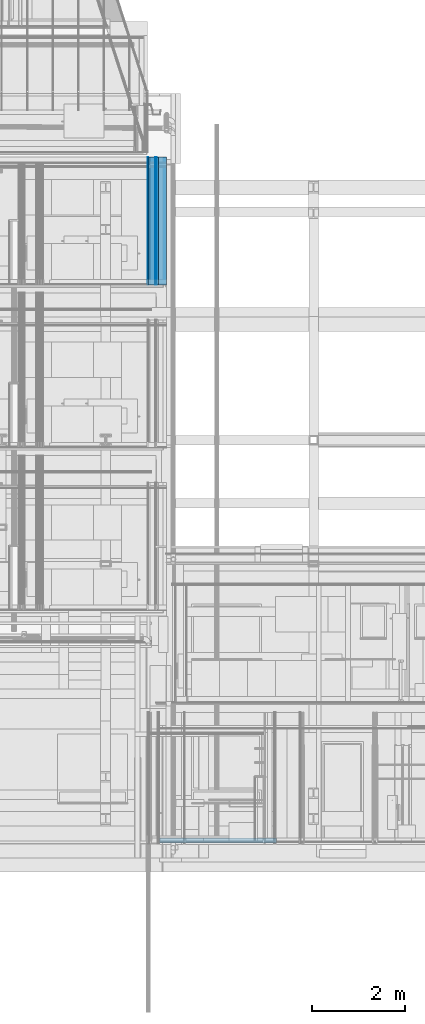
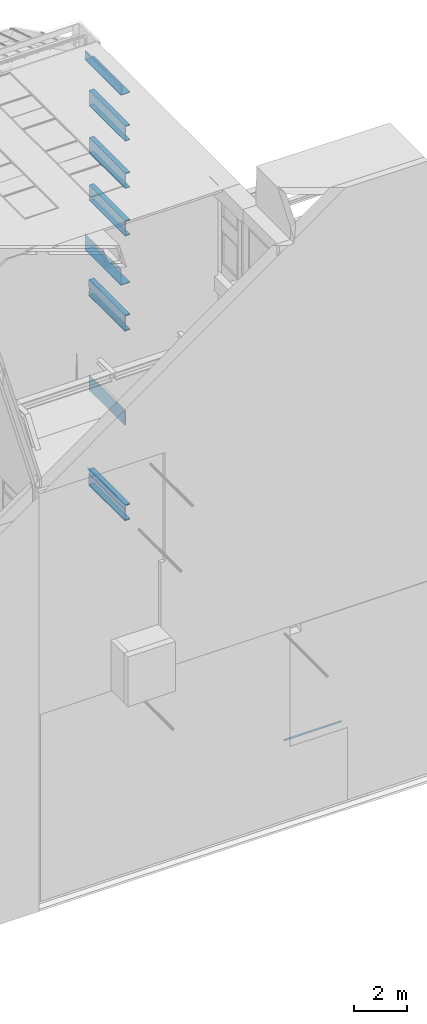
# One storey, part 127 of 583: 50 building element parts, 21 elements without a shape of their own.
"""IFC2X3 building model written with IfcOpenShell, lengths in metres."""

from ifc_helpers import new_model, entity, si_unit, converted_unit, derived_unit, money_unit, direction, frame, frame_2d, origin_with_axes, place, context, subcontext, project, spatial, polyline, rectangle, outline, extrude, material, type_object, element, aggregate, save


model = new_model("IFC2X3")

# Units and contexts
model_context = context("Model", 3, precision=1e-05, world=origin_with_axes(), true_north=direction((0.0, 1.0)))
body_context = subcontext(model_context, "Body", "Model", "MODEL_VIEW", scale=1.0)
ifc_project = project(units=[si_unit("LENGTHUNIT", "METRE"), si_unit("AREAUNIT", "SQUARE_METRE"), si_unit("VOLUMEUNIT", "CUBIC_METRE"), si_unit("ABSORBEDDOSEUNIT", "GRAY"), si_unit("AMOUNTOFSUBSTANCEUNIT", "MOLE"), si_unit("DOSEEQUIVALENTUNIT", "SIEVERT"), si_unit("ELECTRICCAPACITANCEUNIT", "FARAD"), si_unit("ELECTRICCHARGEUNIT", "COULOMB"), si_unit("ELECTRICCONDUCTANCEUNIT", "SIEMENS"), si_unit("ELECTRICCURRENTUNIT", "AMPERE"), si_unit("ELECTRICRESISTANCEUNIT", "OHM"), si_unit("ELECTRICVOLTAGEUNIT", "VOLT"), si_unit("ENERGYUNIT", "JOULE"), si_unit("FORCEUNIT", "NEWTON"), si_unit("FREQUENCYUNIT", "HERTZ"), si_unit("ILLUMINANCEUNIT", "LUX"), si_unit("INDUCTANCEUNIT", "HENRY"), si_unit("LUMINOUSFLUXUNIT", "LUMEN"), si_unit("LUMINOUSINTENSITYUNIT", "CANDELA"), si_unit("MAGNETICFLUXDENSITYUNIT", "TESLA"), si_unit("MAGNETICFLUXUNIT", "WEBER"), si_unit("MASSUNIT", "GRAM"), converted_unit("PLANEANGLEUNIT", "degree", entity("IfcReal", 0.0174532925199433), si_unit("PLANEANGLEUNIT", "RADIAN"), dimensions=[0, 0, 0, 0, 0, 0, 0]), si_unit("POWERUNIT", "WATT"), si_unit("PRESSUREUNIT", "PASCAL"), si_unit("RADIOACTIVITYUNIT", "BECQUEREL"), si_unit("SOLIDANGLEUNIT", "STERADIAN"), si_unit("THERMODYNAMICTEMPERATUREUNIT", "KELVIN"), si_unit("TIMEUNIT", "SECOND"), derived_unit("ACCELERATIONUNIT", [(si_unit("LENGTHUNIT", "METRE"), 1), (si_unit("TIMEUNIT", "SECOND"), -2)]), derived_unit("ANGULARVELOCITYUNIT", [(converted_unit("PLANEANGLEUNIT", "degree", entity("IfcReal", 0.0174532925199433), si_unit("PLANEANGLEUNIT", "RADIAN"), dimensions=[0, 0, 0, 0, 0, 0, 0]), 1), (si_unit("TIMEUNIT", "SECOND"), -1)]), derived_unit("CURVATUREUNIT", [(converted_unit("PLANEANGLEUNIT", "degree", entity("IfcReal", 0.0174532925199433), si_unit("PLANEANGLEUNIT", "RADIAN"), dimensions=[0, 0, 0, 0, 0, 0, 0]), 1), (si_unit("LENGTHUNIT", "METRE"), -1)]), derived_unit("DYNAMICVISCOSITYUNIT", [(si_unit("PRESSUREUNIT", "PASCAL"), 1), (si_unit("TIMEUNIT", "SECOND"), 1)]), derived_unit("HEATFLUXDENSITYUNIT", [(si_unit("POWERUNIT", "WATT"), 1), (si_unit("LENGTHUNIT", "METRE"), -2)]), derived_unit("HEATINGVALUEUNIT", [(si_unit("ENERGYUNIT", "JOULE"), 1), (si_unit("MASSUNIT", "GRAM"), -1)]), derived_unit("INTEGERCOUNTRATEUNIT", [(si_unit("TIMEUNIT", "SECOND"), -1)]), derived_unit("IONCONCENTRATIONUNIT", [(si_unit("MASSUNIT", "GRAM"), 1), (si_unit("VOLUMEUNIT", "CUBIC_METRE"), -1)]), derived_unit("ISOTHERMALMOISTURECAPACITYUNIT", [(si_unit("VOLUMEUNIT", "CUBIC_METRE"), 1), (si_unit("MASSUNIT", "GRAM"), -1)]), derived_unit("KINEMATICVISCOSITYUNIT", [(si_unit("AREAUNIT", "SQUARE_METRE"), 1), (si_unit("TIMEUNIT", "SECOND"), -1)]), derived_unit("LINEARFORCEUNIT", [(si_unit("FORCEUNIT", "NEWTON"), 1), (si_unit("LENGTHUNIT", "METRE"), -1)]), derived_unit("LINEARMOMENTUNIT", [(si_unit("FORCEUNIT", "NEWTON"), 1), (si_unit("LENGTHUNIT", "METRE"), -1)]), derived_unit("LINEARSTIFFNESSUNIT", [(si_unit("FORCEUNIT", "NEWTON"), 1), (si_unit("LENGTHUNIT", "METRE"), -1)]), derived_unit("LINEARVELOCITYUNIT", [(si_unit("LENGTHUNIT", "METRE"), 1), (si_unit("TIMEUNIT", "SECOND"), -1)]), derived_unit("LUMINOUSINTENSITYDISTRIBUTIONUNIT", [(si_unit("LUMINOUSINTENSITYUNIT", "CANDELA"), 1), (si_unit("LUMINOUSFLUXUNIT", "LUMEN"), -1)]), derived_unit("MASSDENSITYUNIT", [(si_unit("MASSUNIT", "GRAM"), 1), (si_unit("VOLUMEUNIT", "CUBIC_METRE"), -1)]), derived_unit("MASSFLOWRATEUNIT", [(si_unit("MASSUNIT", "GRAM"), 1), (si_unit("TIMEUNIT", "SECOND"), -1)]), derived_unit("MASSPERLENGTHUNIT", [(si_unit("MASSUNIT", "GRAM"), 1), (si_unit("LENGTHUNIT", "METRE"), -1)]), derived_unit("MODULUSOFELASTICITYUNIT", [(si_unit("FORCEUNIT", "NEWTON"), 1), (si_unit("AREAUNIT", "SQUARE_METRE"), -1)]), derived_unit("MODULUSOFLINEARSUBGRADEREACTIONUNIT", [(si_unit("FORCEUNIT", "NEWTON"), 1), (si_unit("LENGTHUNIT", "METRE"), -2)]), derived_unit("MODULUSOFROTATIONALSUBGRADEREACTIONUNIT", [(si_unit("FORCEUNIT", "NEWTON"), 1), (si_unit("LENGTHUNIT", "METRE"), 1)]), derived_unit("MODULUSOFSUBGRADEREACTIONUNIT", [(si_unit("FORCEUNIT", "NEWTON"), 1), (si_unit("VOLUMEUNIT", "CUBIC_METRE"), -1)]), derived_unit("MOISTUREDIFFUSIVITYUNIT", [(si_unit("VOLUMEUNIT", "CUBIC_METRE"), 1), (si_unit("TIMEUNIT", "SECOND"), -1)]), derived_unit("MOLECULARWEIGHTUNIT", [(si_unit("MASSUNIT", "GRAM"), 1), (si_unit("AMOUNTOFSUBSTANCEUNIT", "MOLE"), -1)]), derived_unit("PLANARFORCEUNIT", [(si_unit("FORCEUNIT", "NEWTON"), 1), (si_unit("LENGTHUNIT", "METRE"), -2)]), derived_unit("ROTATIONALFREQUENCYUNIT", [(si_unit("TIMEUNIT", "SECOND"), -1)]), derived_unit("ROTATIONALMASSUNIT", [(si_unit("MASSUNIT", "GRAM"), 1), (si_unit("LENGTHUNIT", "METRE"), 2)]), derived_unit("ROTATIONALSTIFFNESSUNIT", [(si_unit("FORCEUNIT", "NEWTON"), 1), (si_unit("LENGTHUNIT", "METRE"), 1), (converted_unit("PLANEANGLEUNIT", "degree", entity("IfcReal", 0.0174532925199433), si_unit("PLANEANGLEUNIT", "RADIAN"), dimensions=[0, 0, 0, 0, 0, 0, 0]), -1)]), derived_unit("SECTIONAREAINTEGRALUNIT", [(si_unit("LENGTHUNIT", "METRE"), 5)]), derived_unit("SECTIONMODULUSUNIT", [(si_unit("LENGTHUNIT", "METRE"), 3)]), derived_unit("SHEARMODULUSUNIT", [(si_unit("FORCEUNIT", "NEWTON"), 1), (si_unit("AREAUNIT", "SQUARE_METRE"), -1)]), derived_unit("SOUNDPOWERUNIT", [(si_unit("ENERGYUNIT", "JOULE"), 1), (si_unit("TIMEUNIT", "SECOND"), -1)]), derived_unit("SPECIFICHEATCAPACITYUNIT", [(si_unit("FORCEUNIT", "NEWTON"), 1), (si_unit("MASSUNIT", "GRAM"), -1), (si_unit("THERMODYNAMICTEMPERATUREUNIT", "KELVIN"), -1)]), derived_unit("TEMPERATUREGRADIENTUNIT", [(si_unit("THERMODYNAMICTEMPERATUREUNIT", "KELVIN"), 1), (si_unit("LENGTHUNIT", "METRE"), -1)]), derived_unit("THERMALADMITTANCEUNIT", [(si_unit("POWERUNIT", "WATT"), 1), (si_unit("AREAUNIT", "SQUARE_METRE"), -1), (si_unit("THERMODYNAMICTEMPERATUREUNIT", "KELVIN"), -1)]), derived_unit("THERMALCONDUCTANCEUNIT", [(si_unit("POWERUNIT", "WATT"), 1), (si_unit("LENGTHUNIT", "METRE"), -1), (si_unit("THERMODYNAMICTEMPERATUREUNIT", "KELVIN"), -1)]), derived_unit("THERMALEXPANSIONCOEFFICIENTUNIT", [(si_unit("THERMODYNAMICTEMPERATUREUNIT", "KELVIN"), -1)]), derived_unit("THERMALRESISTANCEUNIT", [(si_unit("AREAUNIT", "SQUARE_METRE"), 1), (si_unit("POWERUNIT", "WATT"), -1)]), derived_unit("THERMALTRANSMITTANCEUNIT", [(si_unit("POWERUNIT", "WATT"), 1), (si_unit("AREAUNIT", "SQUARE_METRE"), -1), (si_unit("THERMODYNAMICTEMPERATUREUNIT", "KELVIN"), -1)]), derived_unit("TORQUEUNIT", [(si_unit("FORCEUNIT", "NEWTON"), 1), (si_unit("LENGTHUNIT", "METRE"), 1)]), derived_unit("VAPORPERMEABILITYUNIT", [(si_unit("MASSUNIT", "GRAM"), 1), (si_unit("TIMEUNIT", "SECOND"), -1)]), derived_unit("VOLUMETRICFLOWRATEUNIT", [(si_unit("VOLUMEUNIT", "CUBIC_METRE"), 1), (si_unit("TIMEUNIT", "SECOND"), -1)]), derived_unit("WARPINGCONSTANTUNIT", [(si_unit("LENGTHUNIT", "METRE"), 6)]), derived_unit("WARPINGMOMENTUNIT", [(si_unit("FORCEUNIT", "NEWTON"), 1), (si_unit("LENGTHUNIT", "METRE"), 2)]), money_unit("GBP")], contexts=[model_context])

# Site, building, storey
site_placement = place(None, origin_with_axes())
site = spatial("IfcSite", under=ifc_project, at=site_placement, Name="Site", CompositionType="ELEMENT")
building_placement = place(site_placement, origin_with_axes())
building = spatial("IfcBuilding", under=site, at=building_placement, Name="Building01", CompositionType="ELEMENT")
storey_placement = place(building_placement, frame((0.0, 0.0, 20.78), z_axis=(0.0, 0.0, 1.0), x_axis=(1.0, 0.0, 0.0)))
storey = spatial("IfcBuildingStorey", under=building, at=storey_placement, Name="RL", CompositionType="ELEMENT", Elevation=20.78)

# Wall, building element part
wall_type_1 = type_object("IfcWallType", Name="SHE_A-Walls_Type01a_Partywall_250mm_twin", PredefinedType="NOTDEFINED")
wall_1_placement = place(storey_placement, frame((16.968647, 0.148, -17.324475), z_axis=(0.0, 1.0, 0.0), x_axis=(-1.0, 0.0, 0.0)))
wall_1 = element("IfcWall", 1, at=wall_1_placement, inside=storey, type_object=wall_type_1, Name="1A", ObjectType="SHE_A-Walls_Type01a_Partywall_250mm_twin")
ifc_material_1 = material(Name="A_BSUK_Walls_Timber")
building_element_part_1_placement = place(wall_1_placement, origin_with_axes())
building_element_part_1 = element("IfcBuildingElementPart", 2, at=building_element_part_1_placement, material=ifc_material_1, Name="2", context=body_context, shape_type="SweptSolid", body=[
    extrude(outline(polyline([(2.318647, 0.19), (-0.19, 0.19), (-0.175, 0.175), (2.318647, 0.175), (2.318647, 0.19)])), frame((0.0, 0.0, 0.015), z_axis=(0.0, 0.0, 1.0), x_axis=(1.0, 0.0, 0.0)), (0.0, 0.0, 1.0), 0.1),
])
aggregate(wall_1, [building_element_part_1])

wall_type_2 = type_object("IfcWallType", Name="SHE_A-Walls_Type06d_ExternalWallInsulation_48mm", PredefinedType="NOTDEFINED")
wall_2_placement = place(storey_placement, frame((14.45, 12.13, -2.56), z_axis=(0.0, 1.0, 0.0), x_axis=(0.0, 0.0, -1.0)))
wall_2 = element("IfcWall", 3, at=wall_2_placement, inside=storey, type_object=wall_type_2, Name="6D", ObjectType="SHE_A-Walls_Type06d_ExternalWallInsulation_48mm")
ifc_material_2 = material(Name="A_BSUK_WallInternal_Finishes_Plasterboard")
building_element_part_2_placement = place(wall_2_placement, origin_with_axes())
building_element_part_2 = element("IfcBuildingElementPart", 4, at=building_element_part_2_placement, material=ifc_material_2, Name="3", context=body_context, shape_type="SweptSolid", body=[
    extrude(outline(polyline([(0.718, 0.048), (-0.048, 0.048), (-0.035, 0.035), (0.705, 0.035), (0.718, 0.048)])), origin_with_axes(), (0.0, 0.0, 1.0), 2.74),
])
aggregate(wall_2, [building_element_part_2])

# Wall, building element parts
wall_3_placement = place(storey_placement, frame((14.45, 12.13, -3.23), z_axis=(0.0, 1.0, 0.0), x_axis=(1.0, 0.0, 0.0)))
wall_3 = element("IfcWall", 5, at=wall_3_placement, inside=storey, type_object=wall_type_2, Name="6D", ObjectType="SHE_A-Walls_Type06d_ExternalWallInsulation_48mm")
ifc_material_3 = material(Name="A_BSUK_Insulation")
placement_1 = place(wall_3_placement, origin_with_axes())
building_element_part_3 = element("IfcBuildingElementPart", 6, at=placement_1, material=ifc_material_3, Name="1", context=body_context, shape_type="SweptSolid", body=[
    extrude(outline(polyline([(-0.036, 0.036), (0.0, 0.0), (0.35, 0.0), (0.35, 0.036), (-0.036, 0.036)])), origin_with_axes(), (0.0, 0.0, 1.0), 2.74),
])
building_element_part_4 = element("IfcBuildingElementPart", 7, at=placement_1, material=ifc_material_2, Name="3", context=body_context, shape_type="SweptSolid", body=[
    extrude(outline(polyline([(-0.048, 0.048), (-0.035, 0.035), (0.35, 0.035), (0.35, 0.048), (-0.048, 0.048)])), origin_with_axes(), (0.0, 0.0, 1.0), 2.74),
])
aggregate(wall_3, [building_element_part_3, building_element_part_4])

wall_4_placement = place(storey_placement, frame((14.8, 12.13, -0.393), z_axis=(0.0, 1.0, 0.0), x_axis=(-1.0, 0.0, 0.0)))
wall_4 = element("IfcWall", 8, at=wall_4_placement, inside=storey, type_object=wall_type_2, Name="6D", ObjectType="SHE_A-Walls_Type06d_ExternalWallInsulation_48mm")
placement_2 = place(wall_4_placement, origin_with_axes())
building_element_part_5 = element("IfcBuildingElementPart", 9, at=placement_2, material=ifc_material_3, Name="1", context=body_context, shape_type="SweptSolid", body=[
    extrude(outline(polyline([(0.206, 0.036), (0.0, 0.036), (0.0, 0.0), (0.17, 0.0), (0.206, 0.036)])), origin_with_axes(), (0.0, 0.0, 1.0), 2.74),
])
building_element_part_6 = element("IfcBuildingElementPart", 10, at=placement_2, material=ifc_material_2, Name="3", context=body_context, shape_type="SweptSolid", body=[
    extrude(outline(polyline([(0.218, 0.048), (0.0, 0.048), (0.0, 0.035), (0.205, 0.035), (0.218, 0.048)])), origin_with_axes(), (0.0, 0.0, 1.0), 2.74),
])
aggregate(wall_4, [building_element_part_5, building_element_part_6])

wall_5_placement = place(storey_placement, frame((14.63, 12.13, -0.393), z_axis=(0.0, 1.0, 0.0), x_axis=(0.0, 0.0, -1.0)))
wall_5 = element("IfcWall", 11, at=wall_5_placement, inside=storey, type_object=wall_type_2, Name="6D", ObjectType="SHE_A-Walls_Type06d_ExternalWallInsulation_48mm")
placement_3 = place(wall_5_placement, origin_with_axes())
building_element_part_7 = element("IfcBuildingElementPart", 12, at=placement_3, material=ifc_material_3, Name="1", context=body_context, shape_type="SweptSolid", body=[
    extrude(outline(polyline([(0.66, 0.036), (-0.036, 0.036), (0.0, 0.0), (0.624, 0.0), (0.66, 0.036)])), origin_with_axes(), (0.0, 0.0, 1.0), 2.74),
])
building_element_part_8 = element("IfcBuildingElementPart", 13, at=placement_3, material=ifc_material_2, Name="3", context=body_context, shape_type="SweptSolid", body=[
    extrude(outline(polyline([(0.672, 0.048), (-0.048, 0.048), (-0.035, 0.035), (0.659, 0.035), (0.672, 0.048)])), origin_with_axes(), (0.0, 0.0, 1.0), 2.74),
])
aggregate(wall_5, [building_element_part_7, building_element_part_8])

wall_6_placement = place(storey_placement, frame((14.63, 12.13, -1.017), z_axis=(0.0, 1.0, 0.0), x_axis=(1.0, 0.0, 0.0)))
wall_6 = element("IfcWall", 14, at=wall_6_placement, inside=storey, type_object=wall_type_2, Name="6D", ObjectType="SHE_A-Walls_Type06d_ExternalWallInsulation_48mm")
placement_4 = place(wall_6_placement, origin_with_axes())
building_element_part_9 = element("IfcBuildingElementPart", 15, at=placement_4, material=ifc_material_3, Name="1", context=body_context, shape_type="SweptSolid", body=[
    extrude(outline(polyline([(-0.036, 0.036), (0.0, 0.0), (0.17, 0.0), (0.17, 0.036), (-0.036, 0.036)])), origin_with_axes(), (0.0, 0.0, 1.0), 2.74),
])
building_element_part_10 = element("IfcBuildingElementPart", 16, at=placement_4, material=ifc_material_2, Name="3", context=body_context, shape_type="SweptSolid", body=[
    extrude(outline(polyline([(-0.048, 0.048), (-0.035, 0.035), (0.17, 0.035), (0.17, 0.048), (-0.048, 0.048)])), origin_with_axes(), (0.0, 0.0, 1.0), 2.74),
])
aggregate(wall_6, [building_element_part_9, building_element_part_10])

wall_7_placement = place(storey_placement, frame((14.8, 12.13, 1.797), z_axis=(0.0, 1.0, 0.0), x_axis=(-1.0, 0.0, 0.0)))
wall_7 = element("IfcWall", 17, at=wall_7_placement, inside=storey, type_object=wall_type_2, Name="6D", ObjectType="SHE_A-Walls_Type06d_ExternalWallInsulation_48mm")
placement_5 = place(wall_7_placement, origin_with_axes())
building_element_part_11 = element("IfcBuildingElementPart", 18, at=placement_5, material=ifc_material_3, Name="1", context=body_context, shape_type="SweptSolid", body=[
    extrude(outline(polyline([(0.206, 0.036), (0.0, 0.036), (0.0, 0.0), (0.17, 0.0), (0.206, 0.036)])), origin_with_axes(), (0.0, 0.0, 1.0), 2.74),
])
building_element_part_12 = element("IfcBuildingElementPart", 19, at=placement_5, material=ifc_material_2, Name="3", context=body_context, shape_type="SweptSolid", body=[
    extrude(outline(polyline([(0.218, 0.048), (0.0, 0.048), (0.0, 0.035), (0.205, 0.035), (0.218, 0.048)])), origin_with_axes(), (0.0, 0.0, 1.0), 2.74),
])
aggregate(wall_7, [building_element_part_11, building_element_part_12])

wall_8_placement = place(storey_placement, frame((14.63, 12.13, 1.797), z_axis=(0.0, 1.0, 0.0), x_axis=(0.0, 0.0, -1.0)))
wall_8 = element("IfcWall", 20, at=wall_8_placement, inside=storey, type_object=wall_type_2, Name="6D", ObjectType="SHE_A-Walls_Type06d_ExternalWallInsulation_48mm")
placement_6 = place(wall_8_placement, origin_with_axes())
building_element_part_13 = element("IfcBuildingElementPart", 21, at=placement_6, material=ifc_material_3, Name="1", context=body_context, shape_type="SweptSolid", body=[
    extrude(outline(polyline([(0.66, 0.036), (-0.036, 0.036), (0.0, 0.0), (0.624, 0.0), (0.66, 0.036)])), origin_with_axes(), (0.0, 0.0, 1.0), 2.74),
])
building_element_part_14 = element("IfcBuildingElementPart", 22, at=placement_6, material=ifc_material_2, Name="3", context=body_context, shape_type="SweptSolid", body=[
    extrude(outline(polyline([(0.672, 0.048), (-0.048, 0.048), (-0.035, 0.035), (0.659, 0.035), (0.672, 0.048)])), origin_with_axes(), (0.0, 0.0, 1.0), 2.74),
])
aggregate(wall_8, [building_element_part_13, building_element_part_14])

wall_9_placement = place(storey_placement, frame((14.63, 12.13, 1.173), z_axis=(0.0, 1.0, 0.0), x_axis=(1.0, 0.0, 0.0)))
wall_9 = element("IfcWall", 23, at=wall_9_placement, inside=storey, type_object=wall_type_2, Name="6D", ObjectType="SHE_A-Walls_Type06d_ExternalWallInsulation_48mm")
placement_7 = place(wall_9_placement, origin_with_axes())
building_element_part_15 = element("IfcBuildingElementPart", 24, at=placement_7, material=ifc_material_3, Name="1", context=body_context, shape_type="SweptSolid", body=[
    extrude(outline(polyline([(-0.036, 0.036), (0.0, 0.0), (0.17, 0.0), (0.17, 0.036), (-0.036, 0.036)])), origin_with_axes(), (0.0, 0.0, 1.0), 2.74),
])
building_element_part_16 = element("IfcBuildingElementPart", 25, at=placement_7, material=ifc_material_2, Name="3", context=body_context, shape_type="SweptSolid", body=[
    extrude(outline(polyline([(-0.048, 0.048), (-0.035, 0.035), (0.17, 0.035), (0.17, 0.048), (-0.048, 0.048)])), origin_with_axes(), (0.0, 0.0, 1.0), 2.74),
])
aggregate(wall_9, [building_element_part_15, building_element_part_16])

wall_10_placement = place(storey_placement, frame((14.8, 12.13, 3.987), z_axis=(0.0, 1.0, 0.0), x_axis=(-1.0, 0.0, 0.0)))
wall_10 = element("IfcWall", 26, at=wall_10_placement, inside=storey, type_object=wall_type_2, Name="6D", ObjectType="SHE_A-Walls_Type06d_ExternalWallInsulation_48mm")
placement_8 = place(wall_10_placement, origin_with_axes())
building_element_part_17 = element("IfcBuildingElementPart", 27, at=placement_8, material=ifc_material_3, Name="1", context=body_context, shape_type="SweptSolid", body=[
    extrude(outline(polyline([(0.206, 0.036), (0.0, 0.036), (0.0, 0.0), (0.17, 0.0), (0.206, 0.036)])), origin_with_axes(), (0.0, 0.0, 1.0), 2.74),
])
building_element_part_18 = element("IfcBuildingElementPart", 28, at=placement_8, material=ifc_material_2, Name="3", context=body_context, shape_type="SweptSolid", body=[
    extrude(outline(polyline([(0.218, 0.048), (0.0, 0.048), (0.0, 0.035), (0.205, 0.035), (0.218, 0.048)])), origin_with_axes(), (0.0, 0.0, 1.0), 2.74),
])
aggregate(wall_10, [building_element_part_17, building_element_part_18])

wall_11_placement = place(storey_placement, frame((14.63, 12.13, 3.987), z_axis=(0.0, 1.0, 0.0), x_axis=(0.0, 0.0, -1.0)))
wall_11 = element("IfcWall", 29, at=wall_11_placement, inside=storey, type_object=wall_type_2, Name="6D", ObjectType="SHE_A-Walls_Type06d_ExternalWallInsulation_48mm")
placement_9 = place(wall_11_placement, origin_with_axes())
building_element_part_19 = element("IfcBuildingElementPart", 30, at=placement_9, material=ifc_material_3, Name="1", context=body_context, shape_type="SweptSolid", body=[
    extrude(outline(polyline([(0.66, 0.036), (-0.036, 0.036), (0.0, 0.0), (0.624, 0.0), (0.66, 0.036)])), origin_with_axes(), (0.0, 0.0, 1.0), 2.74),
])
building_element_part_20 = element("IfcBuildingElementPart", 31, at=placement_9, material=ifc_material_2, Name="3", context=body_context, shape_type="SweptSolid", body=[
    extrude(outline(polyline([(0.672, 0.048), (-0.048, 0.048), (-0.035, 0.035), (0.659, 0.035), (0.672, 0.048)])), origin_with_axes(), (0.0, 0.0, 1.0), 2.74),
])
aggregate(wall_11, [building_element_part_19, building_element_part_20])

wall_12_placement = place(storey_placement, frame((14.63, 12.13, 3.363), z_axis=(0.0, 1.0, 0.0), x_axis=(1.0, 0.0, 0.0)))
wall_12 = element("IfcWall", 32, at=wall_12_placement, inside=storey, type_object=wall_type_2, Name="6D", ObjectType="SHE_A-Walls_Type06d_ExternalWallInsulation_48mm")
placement_10 = place(wall_12_placement, origin_with_axes())
building_element_part_21 = element("IfcBuildingElementPart", 33, at=placement_10, material=ifc_material_3, Name="1", context=body_context, shape_type="SweptSolid", body=[
    extrude(outline(polyline([(-0.036, 0.036), (0.0, 0.0), (0.17, 0.0), (0.17, 0.036), (-0.036, 0.036)])), origin_with_axes(), (0.0, 0.0, 1.0), 2.74),
])
building_element_part_22 = element("IfcBuildingElementPart", 34, at=placement_10, material=ifc_material_2, Name="3", context=body_context, shape_type="SweptSolid", body=[
    extrude(outline(polyline([(-0.048, 0.048), (-0.035, 0.035), (0.17, 0.035), (0.17, 0.048), (-0.048, 0.048)])), origin_with_axes(), (0.0, 0.0, 1.0), 2.74),
])
aggregate(wall_12, [building_element_part_21, building_element_part_22])

wall_13_placement = place(storey_placement, frame((14.45, 12.13, 5.93), z_axis=(0.0, 1.0, 0.0), x_axis=(0.0, 0.0, -1.0)))
wall_13 = element("IfcWall", 35, at=wall_13_placement, inside=storey, type_object=wall_type_2, Name="6D", ObjectType="SHE_A-Walls_Type06d_ExternalWallInsulation_48mm")
placement_11 = place(wall_13_placement, origin_with_axes())
building_element_part_23 = element("IfcBuildingElementPart", 36, at=placement_11, material=ifc_material_3, Name="1", context=body_context, shape_type="SweptSolid", body=[
    extrude(outline(polyline([(0.413, 0.036), (0.036, 0.036), (0.0, 0.0), (0.377, 0.0), (0.413, 0.036)])), origin_with_axes(), (0.0, 0.0, 1.0), 2.74),
])
building_element_part_24 = element("IfcBuildingElementPart", 37, at=placement_11, material=ifc_material_2, Name="3", context=body_context, shape_type="SweptSolid", body=[
    extrude(outline(polyline([(0.425, 0.048), (0.048, 0.048), (0.035, 0.035), (0.412, 0.035), (0.425, 0.048)])), origin_with_axes(), (0.0, 0.0, 1.0), 2.74),
])
aggregate(wall_13, [building_element_part_23, building_element_part_24])

wall_14_placement = place(storey_placement, frame((14.45, 12.13, 5.553), z_axis=(0.0, 1.0, 0.0), x_axis=(1.0, 0.0, 0.0)))
wall_14 = element("IfcWall", 38, at=wall_14_placement, inside=storey, type_object=wall_type_2, Name="6D", ObjectType="SHE_A-Walls_Type06d_ExternalWallInsulation_48mm")
placement_12 = place(wall_14_placement, origin_with_axes())
building_element_part_25 = element("IfcBuildingElementPart", 39, at=placement_12, material=ifc_material_3, Name="1", context=body_context, shape_type="SweptSolid", body=[
    extrude(outline(polyline([(-0.036, 0.036), (0.0, 0.0), (0.35, 0.0), (0.35, 0.036), (-0.036, 0.036)])), origin_with_axes(), (0.0, 0.0, 1.0), 2.74),
])
building_element_part_26 = element("IfcBuildingElementPart", 40, at=placement_12, material=ifc_material_2, Name="3", context=body_context, shape_type="SweptSolid", body=[
    extrude(outline(polyline([(-0.048, 0.048), (-0.035, 0.035), (0.35, 0.035), (0.35, 0.048), (-0.048, 0.048)])), origin_with_axes(), (0.0, 0.0, 1.0), 2.74),
])
aggregate(wall_14, [building_element_part_25, building_element_part_26])

wall_15_placement = place(storey_placement, frame((14.63, 12.13, -9.153), z_axis=(0.0, 1.0, 0.0), x_axis=(0.0, 0.0, -1.0)))
wall_15 = element("IfcWall", 41, at=wall_15_placement, inside=storey, type_object=wall_type_2, Name="6D", ObjectType="SHE_A-Walls_Type06d_ExternalWallInsulation_48mm")
placement_13 = place(wall_15_placement, origin_with_axes())
building_element_part_27 = element("IfcBuildingElementPart", 42, at=placement_13, material=ifc_material_3, Name="1", context=body_context, shape_type="SweptSolid", body=[
    extrude(outline(polyline([(0.66, 0.036), (-0.036, 0.036), (0.0, 0.0), (0.624, 0.0), (0.66, 0.036)])), origin_with_axes(), (0.0, 0.0, 1.0), 2.74),
])
building_element_part_28 = element("IfcBuildingElementPart", 43, at=placement_13, material=ifc_material_2, Name="4", context=body_context, shape_type="SweptSolid", body=[
    extrude(outline(polyline([(0.672, 0.048), (-0.048, 0.048), (-0.035, 0.035), (0.659, 0.035), (0.672, 0.048)])), origin_with_axes(), (0.0, 0.0, 1.0), 2.74),
])
aggregate(wall_15, [building_element_part_27, building_element_part_28])

wall_type_3 = type_object("IfcWallType", Name="SHE_A-Walls_Type06f_ExternalWallInsulation_48+15mm", PredefinedType="NOTDEFINED")
wall_16_placement = place(storey_placement, frame((14.8, 12.13, -14.157124), z_axis=(0.0, 1.0, 0.0), x_axis=(-1.0, 0.0, 0.0)))
wall_16 = element("IfcWall", 44, at=wall_16_placement, inside=storey, type_object=wall_type_3, Name="6F", ObjectType="SHE_A-Walls_Type06f_ExternalWallInsulation_48+15mm")
placement_14 = place(wall_16_placement, origin_with_axes())
building_element_part_29 = element("IfcBuildingElementPart", 45, at=placement_14, material=ifc_material_3, Name="1", context=body_context, shape_type="SweptSolid", body=[
    extrude(rectangle(XDim=0.17, YDim=0.036, at=frame_2d((0.085, -0.018), x_axis=(-1.0, 0.0))), origin_with_axes(), (0.0, 0.0, 1.0), 2.74),
])
building_element_part_30 = element("IfcBuildingElementPart", 46, at=placement_14, material=ifc_material_2, Name="3", context=body_context, shape_type="SweptSolid", body=[
    extrude(outline(polyline([(0.218, -0.048), (0.0, -0.048), (0.0, -0.063), (0.233, -0.063), (0.218, -0.048)])), origin_with_axes(), (0.0, 0.0, 1.0), 2.74),
])
building_element_part_31 = element("IfcBuildingElementPart", 47, at=placement_14, material=ifc_material_2, Name="4", context=body_context, shape_type="SweptSolid", body=[
    extrude(rectangle(XDim=0.206, YDim=0.012, at=frame_2d((0.103, -0.042), x_axis=(-1.0, 0.0))), origin_with_axes(), (0.0, 0.0, 1.0), 2.74),
])
aggregate(wall_16, [building_element_part_29, building_element_part_30, building_element_part_31])

wall_17_placement = place(storey_placement, frame((14.8, 12.13, -13.533), z_axis=(0.0, 1.0, 0.0), x_axis=(-1.0, 0.0, 0.0)))
wall_17 = element("IfcWall", 48, at=wall_17_placement, inside=storey, type_object=wall_type_3, Name="6F", ObjectType="SHE_A-Walls_Type06f_ExternalWallInsulation_48+15mm")
placement_15 = place(wall_17_placement, origin_with_axes())
building_element_part_32 = element("IfcBuildingElementPart", 49, at=placement_15, material=ifc_material_3, Name="1", context=body_context, shape_type="SweptSolid", body=[
    extrude(rectangle(XDim=0.17, YDim=0.036, at=frame_2d((0.085, 0.018), x_axis=(-1.0, 0.0))), origin_with_axes(), (0.0, 0.0, 1.0), 2.74),
])
building_element_part_33 = element("IfcBuildingElementPart", 50, at=placement_15, material=ifc_material_2, Name="3", context=body_context, shape_type="SweptSolid", body=[
    extrude(outline(polyline([(0.233, 0.063), (0.0, 0.063), (0.0, 0.048), (0.218, 0.048), (0.233, 0.063)])), origin_with_axes(), (0.0, 0.0, 1.0), 2.74),
])
building_element_part_34 = element("IfcBuildingElementPart", 51, at=placement_15, material=ifc_material_2, Name="4", context=body_context, shape_type="SweptSolid", body=[
    extrude(rectangle(XDim=0.206, YDim=0.012, at=frame_2d((0.103, 0.042), x_axis=(-1.0, 0.0))), origin_with_axes(), (0.0, 0.0, 1.0), 2.74),
])
aggregate(wall_17, [building_element_part_32, building_element_part_33, building_element_part_34])

wall_18_placement = place(storey_placement, frame((14.8, 12.13, -5.397), z_axis=(0.0, 1.0, 0.0), x_axis=(-1.0, 0.0, 0.0)))
wall_18 = element("IfcWall", 52, at=wall_18_placement, inside=storey, type_object=wall_type_3, Name="6F", ObjectType="SHE_A-Walls_Type06f_ExternalWallInsulation_48+15mm")
placement_16 = place(wall_18_placement, origin_with_axes())
building_element_part_35 = element("IfcBuildingElementPart", 53, at=placement_16, material=ifc_material_3, Name="1", context=body_context, shape_type="SweptSolid", body=[
    extrude(rectangle(XDim=0.17, YDim=0.036, at=frame_2d((0.085, -0.018), x_axis=(-1.0, 0.0))), origin_with_axes(), (0.0, 0.0, 1.0), 2.74),
])
building_element_part_36 = element("IfcBuildingElementPart", 54, at=placement_16, material=ifc_material_2, Name="3", context=body_context, shape_type="SweptSolid", body=[
    extrude(outline(polyline([(0.218, -0.048), (0.0, -0.048), (0.0, -0.063), (0.233, -0.063), (0.218, -0.048)])), origin_with_axes(), (0.0, 0.0, 1.0), 2.74),
])
building_element_part_37 = element("IfcBuildingElementPart", 55, at=placement_16, material=ifc_material_2, Name="4", context=body_context, shape_type="SweptSolid", body=[
    extrude(rectangle(XDim=0.206, YDim=0.012, at=frame_2d((0.103, -0.042), x_axis=(-1.0, 0.0))), origin_with_axes(), (0.0, 0.0, 1.0), 2.74),
])
aggregate(wall_18, [building_element_part_35, building_element_part_36, building_element_part_37])

wall_19_placement = place(storey_placement, frame((14.8, 12.13, -4.772876), z_axis=(0.0, 1.0, 0.0), x_axis=(-1.0, 0.0, 0.0)))
wall_19 = element("IfcWall", 56, at=wall_19_placement, inside=storey, type_object=wall_type_3, Name="6F", ObjectType="SHE_A-Walls_Type06f_ExternalWallInsulation_48+15mm")
placement_17 = place(wall_19_placement, origin_with_axes())
building_element_part_38 = element("IfcBuildingElementPart", 57, at=placement_17, material=ifc_material_3, Name="1", context=body_context, shape_type="SweptSolid", body=[
    extrude(rectangle(XDim=0.17, YDim=0.036, at=frame_2d((0.085, 0.018), x_axis=(-1.0, 0.0))), origin_with_axes(), (0.0, 0.0, 1.0), 2.74),
])
building_element_part_39 = element("IfcBuildingElementPart", 58, at=placement_17, material=ifc_material_2, Name="3", context=body_context, shape_type="SweptSolid", body=[
    extrude(outline(polyline([(0.233, 0.063), (0.0, 0.063), (0.0, 0.048), (0.218, 0.048), (0.233, 0.063)])), origin_with_axes(), (0.0, 0.0, 1.0), 2.74),
])
building_element_part_40 = element("IfcBuildingElementPart", 59, at=placement_17, material=ifc_material_2, Name="4", context=body_context, shape_type="SweptSolid", body=[
    extrude(rectangle(XDim=0.206, YDim=0.012, at=frame_2d((0.103, 0.042), x_axis=(-1.0, 0.0))), origin_with_axes(), (0.0, 0.0, 1.0), 2.74),
])
aggregate(wall_19, [building_element_part_38, building_element_part_39, building_element_part_40])

wall_20_placement = place(storey_placement, frame((14.63, 12.13, -13.497), z_axis=(0.0, 1.0, 0.0), x_axis=(0.0, 0.0, -1.0)))
wall_20 = element("IfcWall", 60, at=wall_20_placement, inside=storey, type_object=wall_type_3, Name="6F", ObjectType="SHE_A-Walls_Type06f_ExternalWallInsulation_48+15mm")
placement_18 = place(wall_20_placement, origin_with_axes())
building_element_part_41 = element("IfcBuildingElementPart", 61, at=placement_18, material=ifc_material_3, Name="1", context=body_context, shape_type="SweptSolid", body=[
    extrude(rectangle(XDim=0.696124, YDim=0.036, at=frame_2d((0.348062, 0.018), x_axis=(-1.0, 0.0))), origin_with_axes(), (0.0, 0.0, 1.0), 2.74),
])
building_element_part_42 = element("IfcBuildingElementPart", 62, at=placement_18, material=ifc_material_2, Name="3", context=body_context, shape_type="SweptSolid", body=[
    extrude(outline(polyline([(-0.027, 0.063), (-0.012, 0.048), (0.008331, 0.048), (0.008331, 0.063), (-0.027, 0.063)])), origin_with_axes(), (0.0, 0.0, 1.0), 2.74),
])
building_element_part_43 = element("IfcBuildingElementPart", 63, at=placement_18, material=ifc_material_2, Name="5", context=body_context, shape_type="SweptSolid", body=[
    extrude(outline(polyline([(0.723124, 0.063), (0.203331, 0.063), (0.203331, 0.048), (0.708124, 0.048), (0.723124, 0.063)])), origin_with_axes(), (0.0, 0.0, 1.0), 2.74),
])
building_element_part_44 = element("IfcBuildingElementPart", 64, at=placement_18, material=ifc_material_2, Name="6", context=body_context, shape_type="SweptSolid", body=[
    extrude(rectangle(XDim=0.012, YDim=0.035331, at=frame_2d((0.005666, 0.042), x_axis=(0.0, -1.0))), origin_with_axes(), (0.0, 0.0, 1.0), 2.74),
])
building_element_part_45 = element("IfcBuildingElementPart", 65, at=placement_18, material=ifc_material_2, Name="7", context=body_context, shape_type="SweptSolid", body=[
    extrude(rectangle(XDim=0.519793, YDim=0.012, at=frame_2d((0.448228, 0.042), x_axis=(-1.0, 0.0))), origin_with_axes(), (0.0, 0.0, 1.0), 2.74),
])
aggregate(wall_20, [building_element_part_41, building_element_part_42, building_element_part_43, building_element_part_44, building_element_part_45])

wall_21_placement = place(storey_placement, frame((14.63, 12.13, -4.736876), z_axis=(0.0, 1.0, 0.0), x_axis=(0.0, 0.0, -1.0)))
wall_21 = element("IfcWall", 66, at=wall_21_placement, inside=storey, type_object=wall_type_3, Name="6F", ObjectType="SHE_A-Walls_Type06f_ExternalWallInsulation_48+15mm")
placement_19 = place(wall_21_placement, origin_with_axes())
building_element_part_46 = element("IfcBuildingElementPart", 67, at=placement_19, material=ifc_material_3, Name="1", context=body_context, shape_type="SweptSolid", body=[
    extrude(rectangle(XDim=0.696124, YDim=0.036, at=frame_2d((0.348062, 0.018), x_axis=(-1.0, 0.0))), origin_with_axes(), (0.0, 0.0, 1.0), 2.74),
])
building_element_part_47 = element("IfcBuildingElementPart", 68, at=placement_19, material=ifc_material_2, Name="3", context=body_context, shape_type="SweptSolid", body=[
    extrude(outline(polyline([(0.349992, 0.063), (-0.027, 0.063), (-0.012, 0.048), (0.349992, 0.048), (0.349992, 0.063)])), origin_with_axes(), (0.0, 0.0, 1.0), 2.74),
])
building_element_part_48 = element("IfcBuildingElementPart", 69, at=placement_19, material=ifc_material_2, Name="5", context=body_context, shape_type="SweptSolid", body=[
    extrude(outline(polyline([(0.723124, 0.063), (0.544992, 0.063), (0.544992, 0.048), (0.708124, 0.048), (0.723124, 0.063)])), origin_with_axes(), (0.0, 0.0, 1.0), 2.74),
])
building_element_part_49 = element("IfcBuildingElementPart", 70, at=placement_19, material=ifc_material_2, Name="6", context=body_context, shape_type="SweptSolid", body=[
    extrude(rectangle(XDim=0.012, YDim=0.376992, at=frame_2d((0.176496, 0.042), x_axis=(0.0, -1.0))), origin_with_axes(), (0.0, 0.0, 1.0), 2.74),
])
building_element_part_50 = element("IfcBuildingElementPart", 71, at=placement_19, material=ifc_material_2, Name="7", context=body_context, shape_type="SweptSolid", body=[
    extrude(rectangle(XDim=0.178132, YDim=0.012, at=frame_2d((0.619058, 0.042), x_axis=(-1.0, 0.0))), origin_with_axes(), (0.0, 0.0, 1.0), 2.74),
])
aggregate(wall_21, [building_element_part_46, building_element_part_47, building_element_part_48, building_element_part_49, building_element_part_50])

save(model, "model.ifc")
